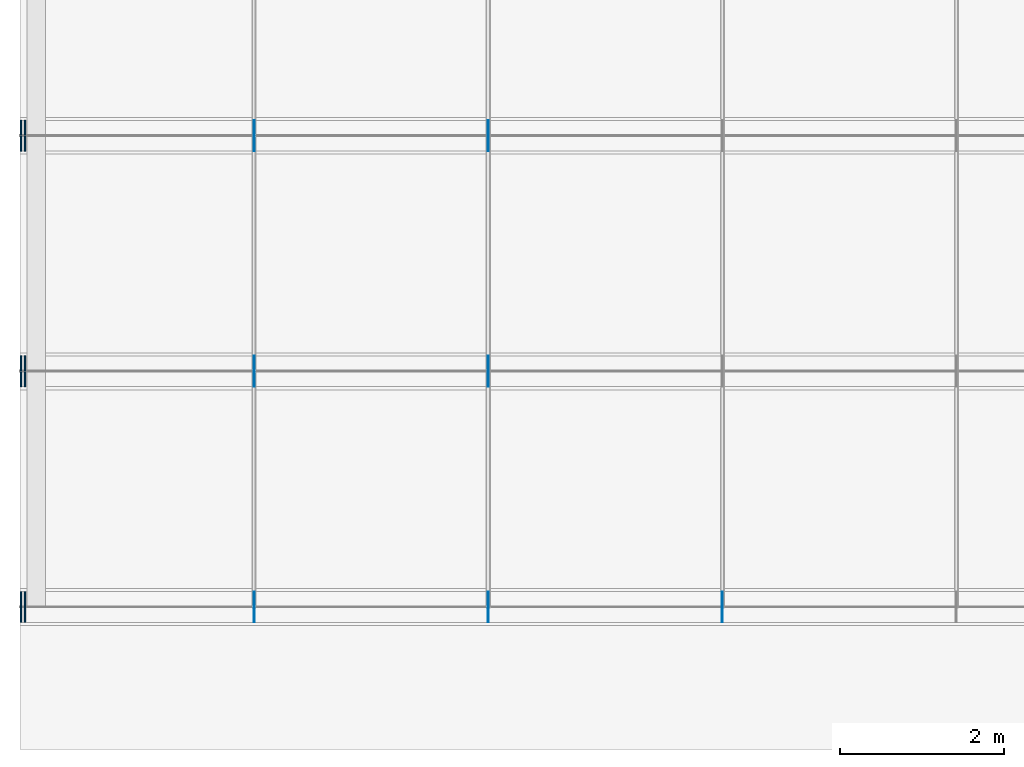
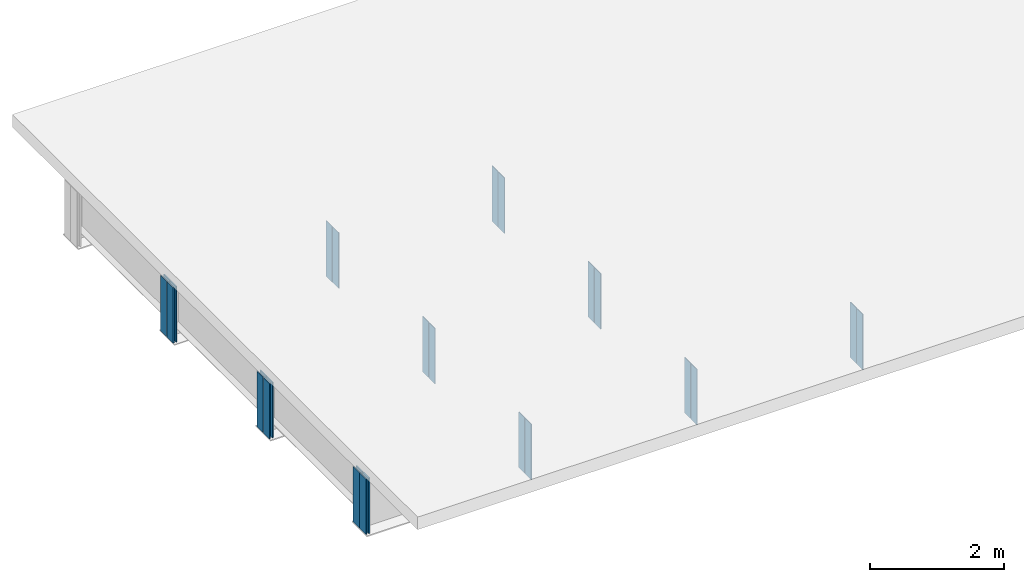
# One storey, part 2 of 12: 26 plates.
"""IFC4 building model written with IfcOpenShell, lengths in metres."""

import ifcopenshell
import ifcopenshell.guid

model = None  # the IFC model being written
_history = None  # IfcOwnerHistory: only IFC2X3 demands one
_inside = {}  # id of a spatial element -> (the spatial element, [elements in it])
_under = {}  # id of a project, library or spatial element -> (it, [spatial elements below it])
_declared = {}  # id of a project -> (the project, [libraries it declares])
_typed = {}  # id of a type object -> (the type object, [elements of that type])
_made_of = {}  # id of a material, layer set ... -> (it, [elements and type objects made of it])


def new_model(schema):
    """Start an empty IFC model of exactly this schema.

    Asked for "IFC4X3", IfcOpenShell would pick the latest addendum, in which some entities
    have other attributes; the version numbers below select the first issue.
    IFC2X3 requires an IfcOwnerHistory on every rooted entity: one is made here for all.
    """
    global model, _history
    if schema == "IFC4X3":
        model = ifcopenshell.file(schema_version=(4, 3, 0, 0))
    else:
        model = ifcopenshell.file(schema=schema)
    _inside.clear()
    _under.clear()
    _declared.clear()
    _typed.clear()
    _made_of.clear()
    _history = None
    if model.schema == "IFC2X3":
        org = make("IfcOrganization", Name="unknown")
        user = make(
            "IfcPersonAndOrganization",
            ThePerson=make("IfcPerson", FamilyName="unknown"),
            TheOrganization=org,
        )
        app = make(
            "IfcApplication",
            ApplicationDeveloper=org,
            Version="unknown",
            ApplicationFullName="unknown",
            ApplicationIdentifier="unknown",
        )
        _history = make(
            "IfcOwnerHistory",
            OwningUser=user,
            OwningApplication=app,
            ChangeAction="ADDED",
            CreationDate=0,
        )
    return model


def make(cls, **values):
    """One entity of the class cls with the attributes given. An attribute that is None is left unset."""
    return model.create_entity(
        cls, **{name: value for name, value in values.items() if value is not None}
    )


def rooted(cls, **values):
    """An entity with a GlobalId (a new one), such as an element, a storey or a relation."""
    return make(cls, GlobalId=ifcopenshell.guid.new(), OwnerHistory=_history, **values)


def si_unit(unit_type, name, prefix=None):
    """IfcSIUnit, for example si_unit("LENGTHUNIT", "METRE", prefix="MILLI")."""
    return make("IfcSIUnit", UnitType=unit_type, Prefix=prefix, Name=name)


def assignment(units):
    """IfcUnitAssignment: the units of a project."""
    return None if units is None else make("IfcUnitAssignment", Units=units)


def point(xyz):
    """IfcCartesianPoint."""
    return None if xyz is None else make("IfcCartesianPoint", Coordinates=xyz)


def direction(xyz):
    """IfcDirection."""
    return None if xyz is None else make("IfcDirection", DirectionRatios=xyz)


def frame(location, z_axis=None, x_axis=None):
    """IfcAxis2Placement3D, a coordinate frame: its origin and axes. An axis left out is left unset."""
    return make(
        "IfcAxis2Placement3D",
        Location=point(location),
        Axis=direction(z_axis),
        RefDirection=direction(x_axis),
    )


def frame_2d(location, x_axis=None):
    """IfcAxis2Placement2D, a coordinate frame in the plane: its origin and x axis."""
    return make(
        "IfcAxis2Placement2D", Location=point(location), RefDirection=direction(x_axis)
    )


def origin():
    """The frame at (0, 0, 0) with its axes left unset."""
    return frame((0.0, 0.0, 0.0))


def origin_with_axes():
    """The frame at (0, 0, 0) with the z axis (0, 0, 1) and the x axis (1, 0, 0) written out."""
    return frame((0.0, 0.0, 0.0), z_axis=(0.0, 0.0, 1.0), x_axis=(1.0, 0.0, 0.0))


def origin_2d_with_axis():
    """The frame at (0, 0) in the plane with the x axis (1, 0) written out."""
    return frame_2d((0.0, 0.0), x_axis=(1.0, 0.0))


def place(relative_to, where):
    """IfcLocalPlacement: puts the frame where relative to a parent placement (None: the world)."""
    return make(
        "IfcLocalPlacement", PlacementRelTo=relative_to, RelativePlacement=where
    )


def context(
    kind, dimensions, precision=None, world=None, true_north=None, identifier=None
):
    """IfcGeometricRepresentationContext, for example the 3D "Model" context."""
    return make(
        "IfcGeometricRepresentationContext",
        ContextIdentifier=identifier,
        ContextType=kind,
        CoordinateSpaceDimension=dimensions,
        Precision=precision,
        WorldCoordinateSystem=world,
        TrueNorth=true_north,
    )


def subcontext(parent, identifier, kind, view, scale=None):
    """IfcGeometricRepresentationSubContext, for example "Body" below "Model"."""
    return make(
        "IfcGeometricRepresentationSubContext",
        ContextIdentifier=identifier,
        ContextType=kind,
        ParentContext=parent,
        TargetScale=scale,
        TargetView=view,
    )


def project(units=None, contexts=None):
    """IfcProject with its units and contexts."""
    return rooted(
        "IfcProject",
        Name="project",
        RepresentationContexts=contexts,
        UnitsInContext=assignment(units),
    )


def spatial(cls, under=None, at=None, **own):
    """A site, building, storey or space (cls), placed at a placement, below another one or the project."""
    s = rooted(cls, ObjectPlacement=at, **own)
    if under is not None:
        _under.setdefault(under.id(), (under, []))[1].append(s)
    return s


def profile(cls, at=None, kind="AREA", **sizes):
    """A parametric profile (cls). Its sizes go by their IFC names, for example OverallWidth=200.0."""
    return make(cls, ProfileType=kind, Position=at, **sizes)


def rectangle(**sizes):
    """IfcRectangleProfileDef."""
    return profile("IfcRectangleProfileDef", **sizes)


def extrude(swept, where, along, depth):
    """IfcExtrudedAreaSolid: the profile swept, set in the frame where, extruded along a direction by depth."""
    return make(
        "IfcExtrudedAreaSolid",
        SweptArea=swept,
        Position=where,
        ExtrudedDirection=direction(along),
        Depth=depth,
    )


def shape(context_of_items, identifier, shape_type, items):
    """IfcShapeRepresentation: the items that make up one representation, for example the "Body"."""
    return make(
        "IfcShapeRepresentation",
        ContextOfItems=context_of_items,
        RepresentationIdentifier=identifier,
        RepresentationType=shape_type,
        Items=items,
    )


def made_of(thing, what):
    """Note that an element or type object is made of a material, layer set ...; save() writes the relation."""
    if what is not None:
        _made_of.setdefault(what.id(), (what, []))[1].append(thing)
    return thing


def element(
    cls,
    number,
    at=None,
    inside=None,
    cuts=None,
    type_object=None,
    material=None,
    context=None,
    identifier="Body",
    shape_type=None,
    held_by="IfcProductDefinitionShape",
    body=None,
    shapes=None,
    **own,
):
    """One element of the class cls, such as IfcWall. Its Tag is "e" and its number.

    at: its placement. inside: the storey or other place that contains it. cuts: it is an
    opening in that element (IfcRelVoidsElement). A single representation is given by context,
    identifier, shape_type and body (its items); several are given by shapes. held_by: the class
    of the entity that holds the representations. save() writes the other relations.
    """
    e = rooted(cls, Tag="e%d" % number, ObjectPlacement=at, **own)
    if body is not None:
        shapes = [shape(context, identifier, shape_type, body)]
    if shapes is not None:
        e.Representation = make(held_by, Representations=shapes)
    if inside is not None:
        _inside.setdefault(inside.id(), (inside, []))[1].append(e)
    if cuts is not None:
        rooted(
            "IfcRelVoidsElement", RelatingBuildingElement=cuts, RelatedOpeningElement=e
        )
    if type_object is not None:
        _typed.setdefault(type_object.id(), (type_object, []))[1].append(e)
    return made_of(e, material)


def aggregate(whole, parts):
    """IfcRelAggregates: a whole, such as a stair, and the parts it consists of."""
    return rooted("IfcRelAggregates", RelatingObject=whole, RelatedObjects=parts)


def save(model, path):
    """Write the relations noted so far, then the file.

    IfcRelAggregates (storeys below a building ...), IfcRelContainedInSpatialStructure (elements
    in a storey), IfcRelDefinesByType, IfcRelAssociatesMaterial and IfcRelDeclares: one each for
    every whole, place, type object, material and project.
    """
    for whole, parts in _under.values():
        aggregate(whole, parts)
    for where, things in _inside.values():
        rooted(
            "IfcRelContainedInSpatialStructure",
            RelatedElements=things,
            RelatingStructure=where,
        )
    for kind, things in _typed.values():
        rooted("IfcRelDefinesByType", RelatedObjects=things, RelatingType=kind)
    for what, things in _made_of.values():
        rooted("IfcRelAssociatesMaterial", RelatedObjects=things, RelatingMaterial=what)
    for by, libraries in _declared.values():
        rooted("IfcRelDeclares", RelatingContext=by, RelatedDefinitions=libraries)
    model.write(path)


model = new_model("IFC4")

# Units and contexts
model_context = context("Model", 3, precision=1e-05, world=origin())
body_context = subcontext(model_context, "Body", "Model", "MODEL_VIEW")
ifc_project = project(units=[si_unit("LENGTHUNIT", "METRE"), si_unit("AREAUNIT", "SQUARE_METRE"), si_unit("VOLUMEUNIT", "CUBIC_METRE"), si_unit("PLANEANGLEUNIT", "RADIAN")], contexts=[model_context])

# Site, building, storey
site_placement = place(None, origin_with_axes())
site = spatial("IfcSite", under=ifc_project, at=site_placement, Name="Default Site")
building_placement = place(site_placement, origin_with_axes())
building = spatial("IfcBuilding", under=site, at=building_placement, Name="Bridge Structure")
storey_placement = place(building_placement, origin_with_axes())
storey = spatial("IfcBuildingStorey", under=building, at=storey_placement, Name="Superstructure")

# Plates
for number, where, z_axis, x_axis, name in (
    (1, (2.857, -4.2162500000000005, -0.506), (0.0, 0.0, 1.0), (1.0, 0.0, 0.0), "Intermediate Stiffener 1"),
    (2, (2.857, -4.40875, -0.506), (0.0, 0.0, 1.0), (1.0, 0.0, 0.0), "Intermediate Stiffener 1"),
    (3, (5.714, -4.2162500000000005, -0.506), (0.0, 0.0, 1.0), (1.0, 0.0, 0.0), "Intermediate Stiffener 1"),
    (4, (5.714, -4.40875, -0.506), (0.0, 0.0, 1.0), (1.0, 0.0, 0.0), "Intermediate Stiffener 1"),
    (5, (8.571, -4.2162500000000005, -0.506), (0.0, 0.0, 1.0), (1.0, 0.0, 0.0), "Intermediate Stiffener 1"),
    (6, (8.571, -4.40875, -0.506), (0.0, 0.0, 1.0), (1.0, 0.0, 0.0), "Intermediate Stiffener 1"),
):
    element("IfcPlate", number, at=place(storey_placement, frame(where, z_axis=z_axis, x_axis=x_axis)), inside=storey, Name=name, context=body_context, shape_type="SweptSolid", body=[
        extrude(rectangle(XDim=0.012, YDim=0.1825, at=origin_2d_with_axis()), origin_with_axes(), (0.0, 0.0, 1.0), 1.012),
    ])
for number, where, z_axis, x_axis, name in (
    (7, (0.01, -4.2162500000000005, -0.506), (0.0, 0.0, 1.0), (1.0, 0.0, 0.0), "End Stiffener 1"),
    (8, (0.01, -4.40875, -0.506), (0.0, 0.0, 1.0), (1.0, 0.0, 0.0), "End Stiffener 1"),
    (9, (0.06, -4.2162500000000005, -0.506), (0.0, 0.0, 1.0), (1.0, 0.0, 0.0), "End Stiffener 1"),
    (10, (0.06, -4.40875, -0.506), (0.0, 0.0, 1.0), (1.0, 0.0, 0.0), "End Stiffener 1"),
):
    element("IfcPlate", number, at=place(storey_placement, frame(where, z_axis=z_axis, x_axis=x_axis)), inside=storey, Name=name, context=body_context, shape_type="SweptSolid", body=[
        extrude(rectangle(XDim=0.02, YDim=0.1825, at=origin_2d_with_axis()), origin_with_axes(), (0.0, 0.0, 1.0), 1.012),
    ])
for number, where, z_axis, x_axis, name in (
    (11, (2.857, -1.34125, -0.506), (0.0, 0.0, 1.0), (1.0, 0.0, 0.0), "Intermediate Stiffener 2"),
    (12, (2.857, -1.53375, -0.506), (0.0, 0.0, 1.0), (1.0, 0.0, 0.0), "Intermediate Stiffener 2"),
    (13, (5.714, -1.34125, -0.506), (0.0, 0.0, 1.0), (1.0, 0.0, 0.0), "Intermediate Stiffener 2"),
    (14, (5.714, -1.53375, -0.506), (0.0, 0.0, 1.0), (1.0, 0.0, 0.0), "Intermediate Stiffener 2"),
):
    element("IfcPlate", number, at=place(storey_placement, frame(where, z_axis=z_axis, x_axis=x_axis)), inside=storey, Name=name, context=body_context, shape_type="SweptSolid", body=[
        extrude(rectangle(XDim=0.012, YDim=0.1825, at=origin_2d_with_axis()), origin_with_axes(), (0.0, 0.0, 1.0), 1.012),
    ])
for number, where, z_axis, x_axis, name in (
    (15, (0.01, -1.34125, -0.506), (0.0, 0.0, 1.0), (1.0, 0.0, 0.0), "End Stiffener 2"),
    (16, (0.01, -1.53375, -0.506), (0.0, 0.0, 1.0), (1.0, 0.0, 0.0), "End Stiffener 2"),
    (17, (0.06, -1.34125, -0.506), (0.0, 0.0, 1.0), (1.0, 0.0, 0.0), "End Stiffener 2"),
    (18, (0.06, -1.53375, -0.506), (0.0, 0.0, 1.0), (1.0, 0.0, 0.0), "End Stiffener 2"),
):
    element("IfcPlate", number, at=place(storey_placement, frame(where, z_axis=z_axis, x_axis=x_axis)), inside=storey, Name=name, context=body_context, shape_type="SweptSolid", body=[
        extrude(rectangle(XDim=0.02, YDim=0.1825, at=origin_2d_with_axis()), origin_with_axes(), (0.0, 0.0, 1.0), 1.012),
    ])
for number, where, z_axis, x_axis, name in (
    (19, (2.857, 1.53375, -0.506), (0.0, 0.0, 1.0), (1.0, 0.0, 0.0), "Intermediate Stiffener 3"),
    (20, (2.857, 1.34125, -0.506), (0.0, 0.0, 1.0), (1.0, 0.0, 0.0), "Intermediate Stiffener 3"),
    (21, (5.714, 1.53375, -0.506), (0.0, 0.0, 1.0), (1.0, 0.0, 0.0), "Intermediate Stiffener 3"),
    (22, (5.714, 1.34125, -0.506), (0.0, 0.0, 1.0), (1.0, 0.0, 0.0), "Intermediate Stiffener 3"),
):
    element("IfcPlate", number, at=place(storey_placement, frame(where, z_axis=z_axis, x_axis=x_axis)), inside=storey, Name=name, context=body_context, shape_type="SweptSolid", body=[
        extrude(rectangle(XDim=0.012, YDim=0.1825, at=origin_2d_with_axis()), origin_with_axes(), (0.0, 0.0, 1.0), 1.012),
    ])
for number, where, z_axis, x_axis, name in (
    (23, (0.01, 1.53375, -0.506), (0.0, 0.0, 1.0), (1.0, 0.0, 0.0), "End Stiffener 3"),
    (24, (0.01, 1.34125, -0.506), (0.0, 0.0, 1.0), (1.0, 0.0, 0.0), "End Stiffener 3"),
    (25, (0.06, 1.53375, -0.506), (0.0, 0.0, 1.0), (1.0, 0.0, 0.0), "End Stiffener 3"),
    (26, (0.06, 1.34125, -0.506), (0.0, 0.0, 1.0), (1.0, 0.0, 0.0), "End Stiffener 3"),
):
    element("IfcPlate", number, at=place(storey_placement, frame(where, z_axis=z_axis, x_axis=x_axis)), inside=storey, Name=name, context=body_context, shape_type="SweptSolid", body=[
        extrude(rectangle(XDim=0.02, YDim=0.1825, at=origin_2d_with_axis()), origin_with_axes(), (0.0, 0.0, 1.0), 1.012),
    ])

save(model, "model.ifc")
